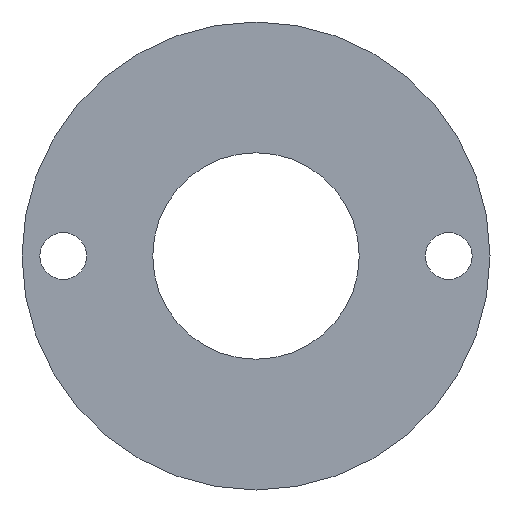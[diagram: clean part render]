
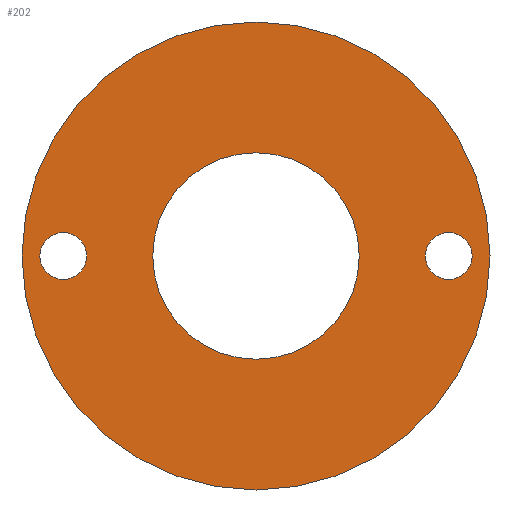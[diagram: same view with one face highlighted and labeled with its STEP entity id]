
A CAD part, left-side view. The second image highlights one B-rep face of the part: STEP entity #202.
In plain terms, the highlighted planar face has unit normal (-1, 0, 0).
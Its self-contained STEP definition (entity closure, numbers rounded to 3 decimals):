
#31 = CYLINDRICAL_SURFACE('',#32,17.);
#32 = AXIS2_PLACEMENT_3D('',#33,#34,#35);
#33 = CARTESIAN_POINT('',(74.6,0.,0.));
#34 = DIRECTION('',(1.,0.,0.));
#35 = DIRECTION('',(-0.,0.,1.));
#56 = VERTEX_POINT('',#57);
#57 = CARTESIAN_POINT('',(74.6,0.,17.));
#78 = EDGE_CURVE('',#56,#56,#79,.T.);
#79 = SURFACE_CURVE('',#80,(#85,#92),.PCURVE_S1.);
#80 = CIRCLE('',#81,17.);
#81 = AXIS2_PLACEMENT_3D('',#82,#83,#84);
#82 = CARTESIAN_POINT('',(74.6,0.,0.));
#83 = DIRECTION('',(1.,0.,0.));
#84 = DIRECTION('',(-0.,0.,1.));
#85 = PCURVE('',#31,#86);
#86 = DEFINITIONAL_REPRESENTATION('',(#87),#91);
#87 = LINE('',#88,#89);
#88 = CARTESIAN_POINT('',(0.,0.));
#89 = VECTOR('',#90,1.);
#90 = DIRECTION('',(1.,0.));
#91 = ( GEOMETRIC_REPRESENTATION_CONTEXT(2) 
PARAMETRIC_REPRESENTATION_CONTEXT() REPRESENTATION_CONTEXT('2D SPACE',''
  ) );
#92 = PCURVE('',#93,#98);
#93 = PLANE('',#94);
#94 = AXIS2_PLACEMENT_3D('',#95,#96,#97);
#95 = CARTESIAN_POINT('',(74.6,0.,0.));
#96 = DIRECTION('',(1.,0.,0.));
#97 = DIRECTION('',(-0.,0.,1.));
#98 = DEFINITIONAL_REPRESENTATION('',(#99),#103);
#99 = CIRCLE('',#100,17.);
#100 = AXIS2_PLACEMENT_2D('',#101,#102);
#101 = CARTESIAN_POINT('',(0.,0.));
#102 = DIRECTION('',(1.,0.));
#103 = ( GEOMETRIC_REPRESENTATION_CONTEXT(2) 
PARAMETRIC_REPRESENTATION_CONTEXT() REPRESENTATION_CONTEXT('2D SPACE',''
  ) );
#129 = CYLINDRICAL_SURFACE('',#130,1.7);
#130 = AXIS2_PLACEMENT_3D('',#131,#132,#133);
#131 = CARTESIAN_POINT('',(60.,14.,0.));
#132 = DIRECTION('',(1.,0.,0.));
#133 = DIRECTION('',(-0.,0.,1.));
#160 = CYLINDRICAL_SURFACE('',#161,7.5);
#161 = AXIS2_PLACEMENT_3D('',#162,#163,#164);
#162 = CARTESIAN_POINT('',(74.6,0.,0.));
#163 = DIRECTION('',(1.,0.,0.));
#164 = DIRECTION('',(-0.,0.,1.));
#191 = CYLINDRICAL_SURFACE('',#192,1.7);
#192 = AXIS2_PLACEMENT_3D('',#193,#194,#195);
#193 = CARTESIAN_POINT('',(60.,-14.,0.));
#194 = DIRECTION('',(1.,0.,0.));
#195 = DIRECTION('',(-0.,0.,1.));
#202 = ADVANCED_FACE('',(#203,#206,#232,#258),#93,.F.);
#203 = FACE_BOUND('',#204,.F.);
#204 = EDGE_LOOP('',(#205));
#205 = ORIENTED_EDGE('',*,*,#78,.T.);
#206 = FACE_BOUND('',#207,.F.);
#207 = EDGE_LOOP('',(#208));
#208 = ORIENTED_EDGE('',*,*,#209,.F.);
#209 = EDGE_CURVE('',#210,#210,#212,.T.);
#210 = VERTEX_POINT('',#211);
#211 = CARTESIAN_POINT('',(74.6,14.,1.7));
#212 = SURFACE_CURVE('',#213,(#218,#225),.PCURVE_S1.);
#213 = CIRCLE('',#214,1.7);
#214 = AXIS2_PLACEMENT_3D('',#215,#216,#217);
#215 = CARTESIAN_POINT('',(74.6,14.,0.));
#216 = DIRECTION('',(1.,0.,0.));
#217 = DIRECTION('',(-0.,0.,1.));
#218 = PCURVE('',#93,#219);
#219 = DEFINITIONAL_REPRESENTATION('',(#220),#224);
#220 = CIRCLE('',#221,1.7);
#221 = AXIS2_PLACEMENT_2D('',#222,#223);
#222 = CARTESIAN_POINT('',(0.,-14.));
#223 = DIRECTION('',(1.,0.));
#224 = ( GEOMETRIC_REPRESENTATION_CONTEXT(2) 
PARAMETRIC_REPRESENTATION_CONTEXT() REPRESENTATION_CONTEXT('2D SPACE',''
  ) );
#225 = PCURVE('',#129,#226);
#226 = DEFINITIONAL_REPRESENTATION('',(#227),#231);
#227 = LINE('',#228,#229);
#228 = CARTESIAN_POINT('',(0.,14.6));
#229 = VECTOR('',#230,1.);
#230 = DIRECTION('',(1.,0.));
#231 = ( GEOMETRIC_REPRESENTATION_CONTEXT(2) 
PARAMETRIC_REPRESENTATION_CONTEXT() REPRESENTATION_CONTEXT('2D SPACE',''
  ) );
#232 = FACE_BOUND('',#233,.F.);
#233 = EDGE_LOOP('',(#234));
#234 = ORIENTED_EDGE('',*,*,#235,.F.);
#235 = EDGE_CURVE('',#236,#236,#238,.T.);
#236 = VERTEX_POINT('',#237);
#237 = CARTESIAN_POINT('',(74.6,0.,7.5));
#238 = SURFACE_CURVE('',#239,(#244,#251),.PCURVE_S1.);
#239 = CIRCLE('',#240,7.5);
#240 = AXIS2_PLACEMENT_3D('',#241,#242,#243);
#241 = CARTESIAN_POINT('',(74.6,0.,0.));
#242 = DIRECTION('',(1.,0.,0.));
#243 = DIRECTION('',(-0.,0.,1.));
#244 = PCURVE('',#93,#245);
#245 = DEFINITIONAL_REPRESENTATION('',(#246),#250);
#246 = CIRCLE('',#247,7.5);
#247 = AXIS2_PLACEMENT_2D('',#248,#249);
#248 = CARTESIAN_POINT('',(0.,0.));
#249 = DIRECTION('',(1.,0.));
#250 = ( GEOMETRIC_REPRESENTATION_CONTEXT(2) 
PARAMETRIC_REPRESENTATION_CONTEXT() REPRESENTATION_CONTEXT('2D SPACE',''
  ) );
#251 = PCURVE('',#160,#252);
#252 = DEFINITIONAL_REPRESENTATION('',(#253),#257);
#253 = LINE('',#254,#255);
#254 = CARTESIAN_POINT('',(0.,0.));
#255 = VECTOR('',#256,1.);
#256 = DIRECTION('',(1.,0.));
#257 = ( GEOMETRIC_REPRESENTATION_CONTEXT(2) 
PARAMETRIC_REPRESENTATION_CONTEXT() REPRESENTATION_CONTEXT('2D SPACE',''
  ) );
#258 = FACE_BOUND('',#259,.F.);
#259 = EDGE_LOOP('',(#260));
#260 = ORIENTED_EDGE('',*,*,#261,.F.);
#261 = EDGE_CURVE('',#262,#262,#264,.T.);
#262 = VERTEX_POINT('',#263);
#263 = CARTESIAN_POINT('',(74.6,-14.,1.7));
#264 = SURFACE_CURVE('',#265,(#270,#277),.PCURVE_S1.);
#265 = CIRCLE('',#266,1.7);
#266 = AXIS2_PLACEMENT_3D('',#267,#268,#269);
#267 = CARTESIAN_POINT('',(74.6,-14.,0.));
#268 = DIRECTION('',(1.,0.,0.));
#269 = DIRECTION('',(-0.,0.,1.));
#270 = PCURVE('',#93,#271);
#271 = DEFINITIONAL_REPRESENTATION('',(#272),#276);
#272 = CIRCLE('',#273,1.7);
#273 = AXIS2_PLACEMENT_2D('',#274,#275);
#274 = CARTESIAN_POINT('',(0.,14.));
#275 = DIRECTION('',(1.,0.));
#276 = ( GEOMETRIC_REPRESENTATION_CONTEXT(2) 
PARAMETRIC_REPRESENTATION_CONTEXT() REPRESENTATION_CONTEXT('2D SPACE',''
  ) );
#277 = PCURVE('',#191,#278);
#278 = DEFINITIONAL_REPRESENTATION('',(#279),#283);
#279 = LINE('',#280,#281);
#280 = CARTESIAN_POINT('',(0.,14.6));
#281 = VECTOR('',#282,1.);
#282 = DIRECTION('',(1.,0.));
#283 = ( GEOMETRIC_REPRESENTATION_CONTEXT(2) 
PARAMETRIC_REPRESENTATION_CONTEXT() REPRESENTATION_CONTEXT('2D SPACE',''
  ) );
